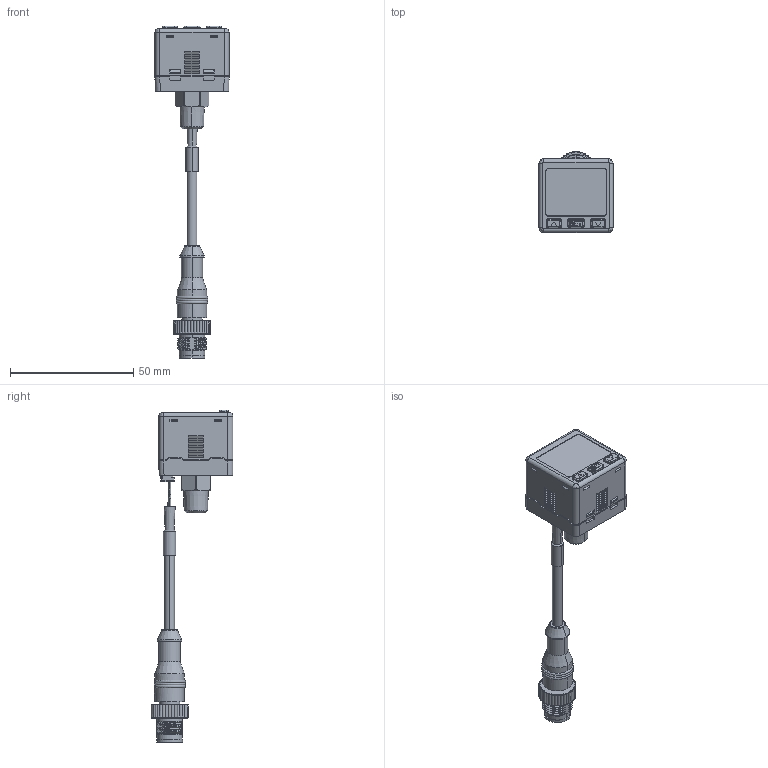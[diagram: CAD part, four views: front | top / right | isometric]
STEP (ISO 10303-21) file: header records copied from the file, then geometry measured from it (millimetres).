
FILE_DESCRIPTION((''),'2;1');
FILE_NAME('KP72_','2022-12-05T',('tommy'),(''),'CREO PARAMETRIC BY PTC INC, 2014500','CREO PARAMETRIC BY PTC INC, 2014500','');
FILE_SCHEMA(('CONFIG_CONTROL_DESIGN'));
Products named in the file (1): KP72_
Bounding box: 30.03 x 33.15 x 134.45 mm (x, y, z)
Volume: 17595.2 mm3; surface area: 22083 mm2
Topology: 2 solids, 2 shells, 2249 faces, 6149 edges, 3900 vertices
Faces by surface type: plane 1458, cylinder 400, cone 217, bspline 106, torus 38, sphere 30
Entity records: 88811 total; most frequent: CARTESIAN_POINT 32928, ORIENTED_EDGE 12250, DIRECTION 10627, EDGE_CURVE 6125, VECTOR 4447, LINE 4447, VERTEX_POINT 3900, AXIS2_PLACEMENT_3D 3090
